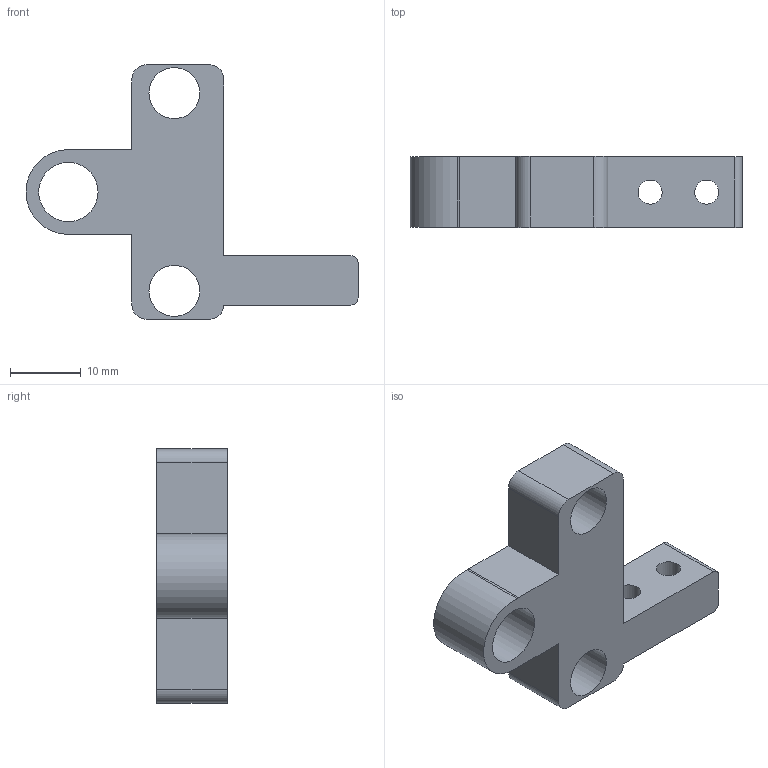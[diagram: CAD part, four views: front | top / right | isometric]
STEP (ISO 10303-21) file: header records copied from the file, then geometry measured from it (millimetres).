
FILE_DESCRIPTION(('Open CASCADE Model'),'2;1');
FILE_NAME('Open CASCADE Shape Model','2026-10-17T16:45:07',('Author'),( 'Open CASCADE'),'Open CASCADE STEP processor 8.0','build123d', 'Unknown');
FILE_SCHEMA(('AUTOMOTIVE_DESIGN { 1 0 10303 214 1 1 1 1 }'));
Length unit declared in the file: millimetre
Products named in the file (1): COMPOUND
Bounding box: 47 x 10 x 36 mm (x, y, z)
Volume: 6121 mm3; surface area: 3644.8 mm2
Topology: 1 solids, 1 shells, 26 faces, 72 edges, 48 vertices
Faces by surface type: cylinder 14, plane 12
Full cylindrical faces by diameter (mm): 3.4 x2, 7.2 x2, 8.4 x1
Entity records: 1850 total; most frequent: CARTESIAN_POINT 395, DIRECTION 274, LINE 152, VECTOR 152, ORIENTED_EDGE 144, PCURVE 144, DEFINITIONAL_REPRESENTATION 144, EDGE_CURVE 72
